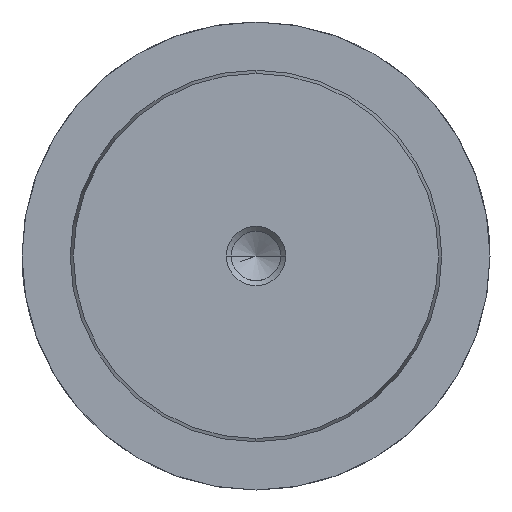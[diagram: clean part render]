
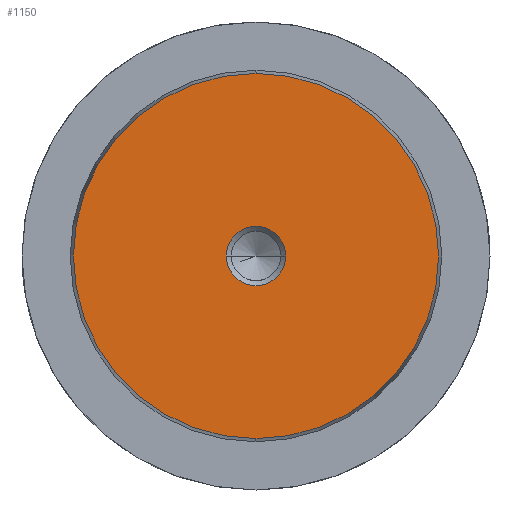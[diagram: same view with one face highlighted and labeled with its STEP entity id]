
A CAD part, left-side view. The second image highlights one B-rep face of the part: STEP entity #1150.
In plain terms, the highlighted planar face has unit normal (-1, 0, 0).
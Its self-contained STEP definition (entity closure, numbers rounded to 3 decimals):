
#1064=CARTESIAN_POINT('Vertex',(0.,0.,-24.578)) ;
#1067=CARTESIAN_POINT('Axis2P3D Location',(0.,0.,0.)) ;
#1071=CARTESIAN_POINT('Vertex',(0.,24.578,0.)) ;
#1074=CARTESIAN_POINT('Axis2P3D Location',(0.,0.,0.)) ;
#1078=CARTESIAN_POINT('Vertex',(0.,0.,24.578)) ;
#1100=CARTESIAN_POINT('Axis2P3D Location',(0.,0.,0.)) ;
#1104=CARTESIAN_POINT('Vertex',(0.,-24.578,0.)) ;
#1107=CARTESIAN_POINT('Axis2P3D Location',(0.,0.,0.)) ;
#1121=CARTESIAN_POINT('Axis2P3D Location',(0.,0.,0.)) ;
#1132=CARTESIAN_POINT('Axis2P3D Location',(0.,0.,0.)) ;
#1136=CARTESIAN_POINT('Vertex',(0.,4.,0.)) ;
#1138=CARTESIAN_POINT('Vertex',(0.,-4.,0.)) ;
#1141=CARTESIAN_POINT('Axis2P3D Location',(0.,0.,0.)) ;
#1068=DIRECTION('Axis2P3D Direction',(1.,0.,-0.)) ;
#1075=DIRECTION('Axis2P3D Direction',(1.,0.,-0.)) ;
#1101=DIRECTION('Axis2P3D Direction',(1.,0.,-0.)) ;
#1108=DIRECTION('Axis2P3D Direction',(1.,0.,-0.)) ;
#1122=DIRECTION('Axis2P3D Direction',(1.,0.,-0.)) ;
#1123=DIRECTION('Axis2P3D XDirection',(-0.,0.,-1.)) ;
#1133=DIRECTION('Axis2P3D Direction',(1.,0.,-0.)) ;
#1142=DIRECTION('Axis2P3D Direction',(1.,0.,-0.)) ;
#1069=AXIS2_PLACEMENT_3D('Circle Axis2P3D',#1067,#1068,$) ;
#1076=AXIS2_PLACEMENT_3D('Circle Axis2P3D',#1074,#1075,$) ;
#1102=AXIS2_PLACEMENT_3D('Circle Axis2P3D',#1100,#1101,$) ;
#1109=AXIS2_PLACEMENT_3D('Circle Axis2P3D',#1107,#1108,$) ;
#1124=AXIS2_PLACEMENT_3D('Plane Axis2P3D',#1121,#1122,#1123) ;
#1134=AXIS2_PLACEMENT_3D('Circle Axis2P3D',#1132,#1133,$) ;
#1143=AXIS2_PLACEMENT_3D('Circle Axis2P3D',#1141,#1142,$) ;
#1127=ORIENTED_EDGE('',*,*,#1073,.F.) ;
#1128=ORIENTED_EDGE('',*,*,#1111,.F.) ;
#1129=ORIENTED_EDGE('',*,*,#1106,.F.) ;
#1130=ORIENTED_EDGE('',*,*,#1080,.F.) ;
#1147=ORIENTED_EDGE('',*,*,#1140,.T.) ;
#1148=ORIENTED_EDGE('',*,*,#1145,.T.) ;
#1149=FACE_BOUND('',#1146,.T.) ;
#1150=ADVANCED_FACE('718-50x200',(#1131,#1149),#1125,.F.) ;
#1070=CIRCLE('generated circle',#1069,24.578) ;
#1077=CIRCLE('generated circle',#1076,24.578) ;
#1103=CIRCLE('generated circle',#1102,24.578) ;
#1110=CIRCLE('generated circle',#1109,24.578) ;
#1135=CIRCLE('generated circle',#1134,4.) ;
#1144=CIRCLE('generated circle',#1143,4.) ;
#1073=EDGE_CURVE('',#1065,#1072,#1070,.T.) ;
#1080=EDGE_CURVE('',#1072,#1079,#1077,.T.) ;
#1106=EDGE_CURVE('',#1079,#1105,#1103,.T.) ;
#1111=EDGE_CURVE('',#1105,#1065,#1110,.T.) ;
#1140=EDGE_CURVE('',#1137,#1139,#1135,.T.) ;
#1145=EDGE_CURVE('',#1139,#1137,#1144,.T.) ;
#1126=EDGE_LOOP('',(#1127,#1128,#1129,#1130)) ;
#1146=EDGE_LOOP('',(#1147,#1148)) ;
#1131=FACE_OUTER_BOUND('',#1126,.T.) ;
#1125=PLANE('Plane',#1124) ;
#1065=VERTEX_POINT('',#1064) ;
#1072=VERTEX_POINT('',#1071) ;
#1079=VERTEX_POINT('',#1078) ;
#1105=VERTEX_POINT('',#1104) ;
#1137=VERTEX_POINT('',#1136) ;
#1139=VERTEX_POINT('',#1138) ;
